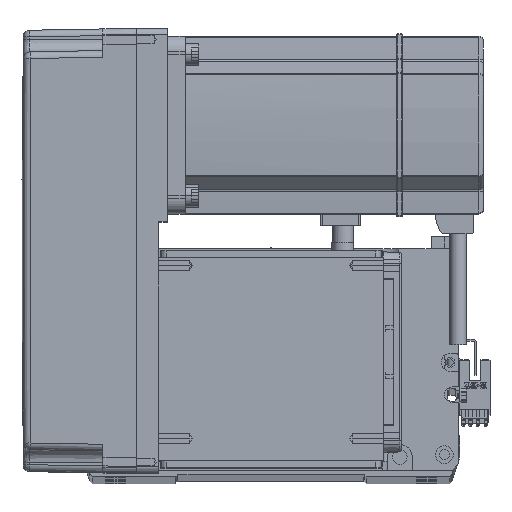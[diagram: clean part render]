
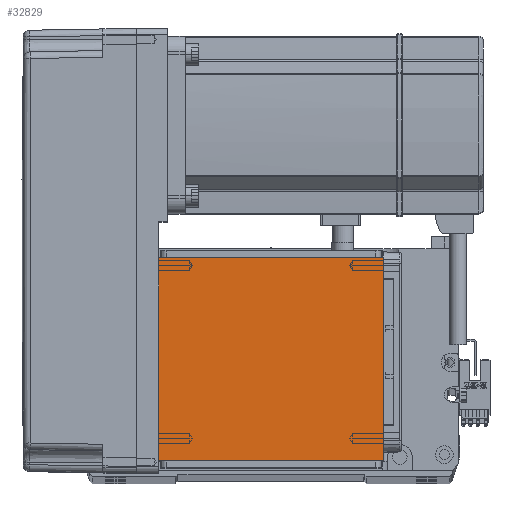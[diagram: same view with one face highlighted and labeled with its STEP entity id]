
A CAD part, top view. The second image highlights one B-rep face of the part: STEP entity #32829.
In plain terms, the highlighted planar face has unit normal (0, 0, 1).
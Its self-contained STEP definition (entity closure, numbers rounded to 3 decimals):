
#703 = VERTEX_POINT ( 'NONE', #20604 ) ;
#1778 = CARTESIAN_POINT ( 'NONE',  ( -70.004, 111.5, 115. ) ) ;
#4688 = DIRECTION ( 'NONE',  ( 1., 0., 0. ) ) ;
#5577 = CARTESIAN_POINT ( 'NONE',  ( -50.5, 20., 115. ) ) ;
#10258 = CARTESIAN_POINT ( 'NONE',  ( 0., 0., 115. ) ) ;
#11069 = CARTESIAN_POINT ( 'NONE',  ( -70.004, 20., 115. ) ) ;
#11349 = EDGE_CURVE ( 'NONE', #39204, #13072, #11467, .T. ) ;
#11467 = LINE ( 'NONE', #28996, #20300 ) ;
#13072 = VERTEX_POINT ( 'NONE', #5577 ) ;
#14138 = PLANE ( 'NONE',  #45348 ) ;
#15098 = EDGE_CURVE ( 'NONE', #39204, #59376, #26551, .T. ) ;
#15898 = CARTESIAN_POINT ( 'NONE',  ( 50.5, 122., 115. ) ) ;
#17934 = EDGE_LOOP ( 'NONE', ( #50765, #37702, #35934, #45953 ) ) ;
#17960 = LINE ( 'NONE', #11069, #57132 ) ;
#19960 = DIRECTION ( 'NONE',  ( -1., 0., 0. ) ) ;
#20300 = VECTOR ( 'NONE', #57914, 1000. ) ;
#20481 = DIRECTION ( 'NONE',  ( 0., 1., 0. ) ) ;
#20604 = CARTESIAN_POINT ( 'NONE',  ( 50.5, 20., 115. ) ) ;
#21674 = CARTESIAN_POINT ( 'NONE',  ( -50.5, 111.5, 115. ) ) ;
#26055 = LINE ( 'NONE', #15898, #43716 ) ;
#26551 = LINE ( 'NONE', #1778, #28010 ) ;
#28010 = VECTOR ( 'NONE', #39715, 1000. ) ;
#28996 = CARTESIAN_POINT ( 'NONE',  ( -50.5, 122., 115. ) ) ;
#32829 = ADVANCED_FACE ( 'NONE', ( #37383 ), #14138, .T. ) ;
#35093 = EDGE_CURVE ( 'NONE', #703, #13072, #17960, .T. ) ;
#35934 = ORIENTED_EDGE ( 'NONE', *, *, #35093, .F. ) ;
#36561 = EDGE_CURVE ( 'NONE', #703, #59376, #26055, .T. ) ;
#37383 = FACE_OUTER_BOUND ( 'NONE', #17934, .T. ) ;
#37702 = ORIENTED_EDGE ( 'NONE', *, *, #11349, .T. ) ;
#38079 = DIRECTION ( 'NONE',  ( 0., 0., 1. ) ) ;
#39204 = VERTEX_POINT ( 'NONE', #21674 ) ;
#39715 = DIRECTION ( 'NONE',  ( 1., 0., 0. ) ) ;
#43716 = VECTOR ( 'NONE', #20481, 1000. ) ;
#45348 = AXIS2_PLACEMENT_3D ( 'NONE', #10258, #38079, #4688 ) ;
#45953 = ORIENTED_EDGE ( 'NONE', *, *, #36561, .T. ) ;
#47772 = CARTESIAN_POINT ( 'NONE',  ( 50.5, 111.5, 115. ) ) ;
#50765 = ORIENTED_EDGE ( 'NONE', *, *, #15098, .F. ) ;
#57132 = VECTOR ( 'NONE', #19960, 1000. ) ;
#57914 = DIRECTION ( 'NONE',  ( 0., -1., 0. ) ) ;
#59376 = VERTEX_POINT ( 'NONE', #47772 ) ;
